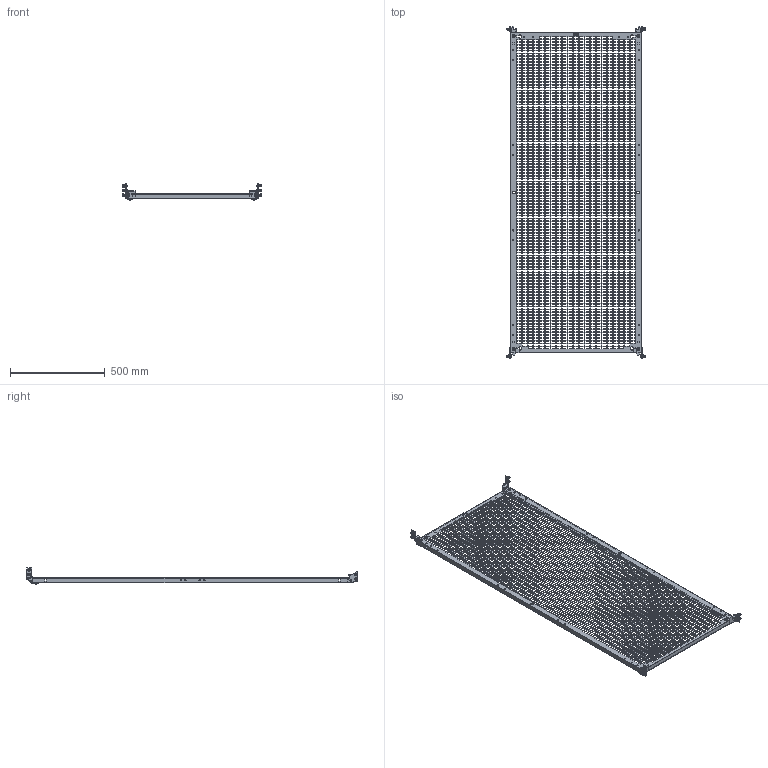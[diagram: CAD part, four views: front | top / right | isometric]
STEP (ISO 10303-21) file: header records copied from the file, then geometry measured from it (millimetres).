
FILE_DESCRIPTION (( 'STEP AP203' ), '1' );
FILE_NAME ('R5NPCEP1880.STEP', '2025-03-26T10:28:51', ( '' ), ( '' ), 'SwSTEP 2.0', 'SolidWorks 2022', '' );
FILE_SCHEMA (( 'CONFIG_CONTROL_DESIGN' ));
Length unit declared in the file: millimetre
Products named in the file (20): M6x16 DIN 7985 Torx cl.8,8 Zinc_stright; RB.2684.00.01.0_-01; М6 D87181 Zinc_In a tightened position (1.5 mm); RB.1499.00.03.0; RB.2814.00.00.0 СБ; M6x16 DIN 912 HX cl.4,8 Zinc_thread; RB.2684.00.01.0; RB.2814.00.01.0_-01; 003-006-19 GOST 9833-73; RB.2684.00.00.0 СБ_-01; RB.2684.00.00.0 СБ; RB.2628.00.00.0_-21; R5NPCEP1880; RB.2684.00.03.0; RB.2814.00.00.0 СБ_-01; RB.2814.00.01.0; RB.2709.00.00.0; M6 MGR-MKO-0625_1,5mm (thread); AC00C237; RB.2697.00.00.0
Assembly tree (43 placements, depth 3):
  R5NPCEP1880
    RB.2628.00.00.0_-21
    RB.2814.00.00.0 СБ_-01
      RB.2814.00.01.0_-01
      M6 MGR-MKO-0625_1,5mm (thread)
    RB.2814.00.00.0 СБ
      RB.2814.00.01.0
      M6 MGR-MKO-0625_1,5mm (thread)
    M6x16 DIN 912 HX cl.4,8 Zinc_thread  x2
    AC00C237  x2
    RB.2684.00.00.0 СБ_-01
      RB.2684.00.01.0_-01
      RB.2684.00.03.0
      RB.1499.00.03.0
      RB.2697.00.00.0
      003-006-19 GOST 9833-73  x2
    RB.2684.00.00.0 СБ
      RB.2684.00.01.0
      RB.2684.00.03.0
      RB.1499.00.03.0
      003-006-19 GOST 9833-73  x2
      RB.2697.00.00.0
    M6x16 DIN 7985 Torx cl.8,8 Zinc_stright  x8
    М6 D87181 Zinc_In a tightened position (1.5 mm)  x8
    RB.2709.00.00.0  x2
Bounding box: 728.3 x 1750.46 x 84.5 mm (x, y, z)
Volume: 1793807 mm3; surface area: 1880195.9 mm2
Topology: 39 solids, 39 shells, 11459 faces, 33622 edges, 22172 vertices
Faces by surface type: plane 10318, cylinder 514, bspline 301, cone 186, torus 132, sphere 8
Full cylindrical faces by diameter (mm): 0.6 x12, 2.3 x4, 2.5 x4, 3.8 x6, 4 x2, 4.2 x4, 4.92 x14, 5 x16, 6 x60, 6.5 x8, 6.7 x2, 7 x12, 7.5 x2, 8 x4, 8.3 x8, 9 x6, 10 x4, 12 x26, 15 x6
Entity records: 343767 total; most frequent: CARTESIAN_POINT 63695, ORIENTED_EDGE 59124, DIRECTION 49843, EDGE_CURVE 29562, VECTOR 28933, LINE 28933, VERTEX_POINT 19776, EDGE_LOOP 15010
